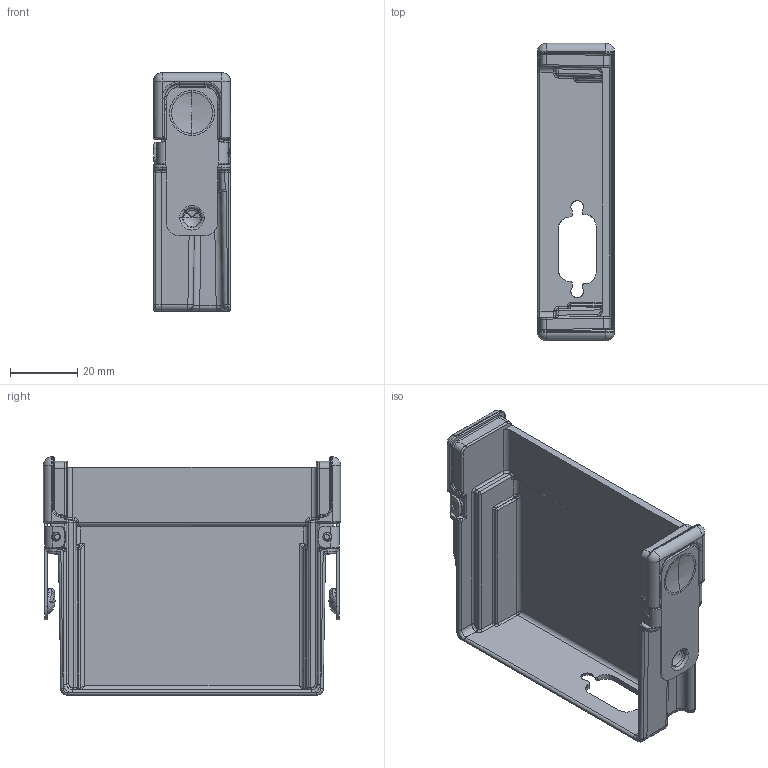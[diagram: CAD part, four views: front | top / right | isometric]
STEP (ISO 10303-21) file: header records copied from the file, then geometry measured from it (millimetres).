
FILE_DESCRIPTION((''),'2;1');
FILE_NAME('CU_CRIO_MOD_ENCLOSURE_ONLY','2016-06-08T',('dkendric'),(''),'CREO PARAMETRIC BY PTC INC, 2015380','CREO PARAMETRIC BY PTC INC, 2015380','');
FILE_SCHEMA(('CONFIG_CONTROL_DESIGN'));
Length unit declared in the file: inch
Products named in the file (1): CU_CRIO_MOD_ENCLOSURE_ONLY
Bounding box: 22.86 x 88.11 x 70.69 mm (x, y, z)
Volume: 26526.2 mm3; surface area: 24387.9 mm2
Topology: 1 solids, 1 shells, 906 faces, 2190 edges, 1254 vertices
Faces by surface type: cylinder 324, bspline 295, plane 168, torus 56, sphere 39, cone 18, extrusion 6
Entity records: 39833 total; most frequent: CARTESIAN_POINT 21288, ORIENTED_EDGE 4324, DIRECTION 3216, EDGE_CURVE 2162, VERTEX_POINT 1254, AXIS2_PLACEMENT_3D 1224, EDGE_LOOP 916, FACE_OUTER_BOUND 906
